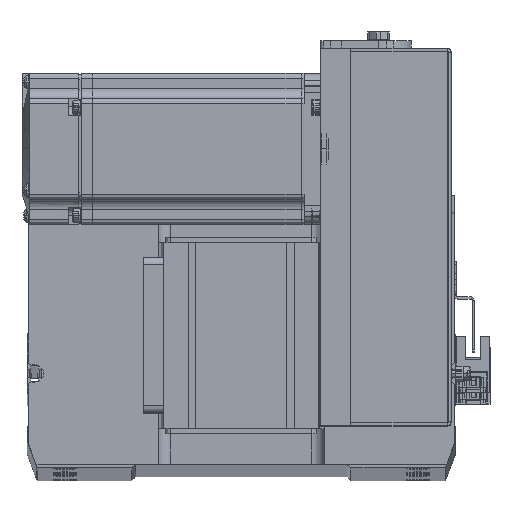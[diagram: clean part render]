
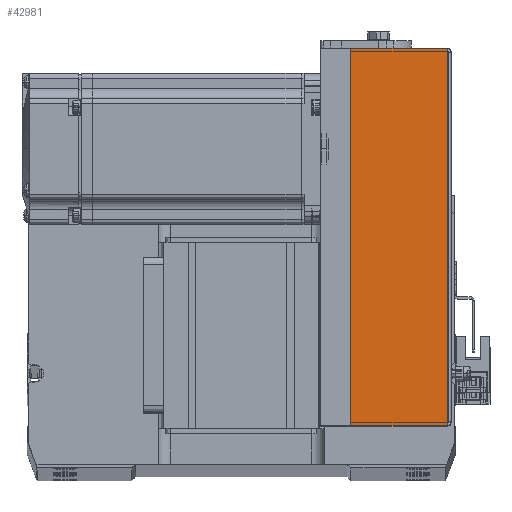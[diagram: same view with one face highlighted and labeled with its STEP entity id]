
A CAD part, top view. The second image highlights one B-rep face of the part: STEP entity #42981.
In plain terms, the highlighted planar face has unit normal (0, 0, 1) as drawn and (0, -1, 0) by its records, which use the part's own axes.
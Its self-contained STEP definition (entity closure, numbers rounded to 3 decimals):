
#1231 = FACE_OUTER_BOUND ( 'NONE', #35021, .T. ) ;
#2370 = ORIENTED_EDGE ( 'NONE', *, *, #43563, .T. ) ;
#2398 = DIRECTION ( 'NONE',  ( 0., 0., -1. ) ) ;
#5300 = VERTEX_POINT ( 'NONE', #30050 ) ;
#5556 = ORIENTED_EDGE ( 'NONE', *, *, #32274, .T. ) ;
#5778 = DIRECTION ( 'NONE',  ( 0., 0., -1. ) ) ;
#6468 = LINE ( 'NONE', #28637, #29147 ) ;
#9187 = ORIENTED_EDGE ( 'NONE', *, *, #18361, .F. ) ;
#10253 = ORIENTED_EDGE ( 'NONE', *, *, #32177, .F. ) ;
#10356 = VECTOR ( 'NONE', #40515, 1000. ) ;
#11614 = DIRECTION ( 'NONE',  ( 0., 0., -1. ) ) ;
#11759 = LINE ( 'NONE', #33472, #10356 ) ;
#12633 = LINE ( 'NONE', #38122, #28366 ) ;
#12998 = CARTESIAN_POINT ( 'NONE',  ( 75., -36., 12. ) ) ;
#14249 = DIRECTION ( 'NONE',  ( 1., 0., 0. ) ) ;
#15611 = CARTESIAN_POINT ( 'NONE',  ( 0., -36., 50.8 ) ) ;
#17371 = VERTEX_POINT ( 'NONE', #12998 ) ;
#18361 = EDGE_CURVE ( 'NONE', #25116, #5300, #11759, .T. ) ;
#20051 = CARTESIAN_POINT ( 'NONE',  ( -75., -36., 12. ) ) ;
#25116 = VERTEX_POINT ( 'NONE', #35012 ) ;
#26220 = PLANE ( 'NONE',  #40728 ) ;
#28366 = VECTOR ( 'NONE', #5778, 1000. ) ;
#28637 = CARTESIAN_POINT ( 'NONE',  ( 0., -36., 12. ) ) ;
#29147 = VECTOR ( 'NONE', #14249, 1000. ) ;
#30050 = CARTESIAN_POINT ( 'NONE',  ( 75., -36., 50.3 ) ) ;
#32177 = EDGE_CURVE ( 'NONE', #5300, #17371, #12633, .T. ) ;
#32274 = EDGE_CURVE ( 'NONE', #46583, #17371, #6468, .T. ) ;
#33472 = CARTESIAN_POINT ( 'NONE',  ( 75., -36., 50.3 ) ) ;
#35012 = CARTESIAN_POINT ( 'NONE',  ( -75., -36., 50.3 ) ) ;
#35021 = EDGE_LOOP ( 'NONE', ( #9187, #2370, #5556, #10253 ) ) ;
#38122 = CARTESIAN_POINT ( 'NONE',  ( 75., -36., 50.3 ) ) ;
#38509 = CARTESIAN_POINT ( 'NONE',  ( -75., -36., 50.3 ) ) ;
#38519 = VECTOR ( 'NONE', #2398, 1000. ) ;
#40515 = DIRECTION ( 'NONE',  ( 1., 0., 0. ) ) ;
#40728 = AXIS2_PLACEMENT_3D ( 'NONE', #15611, #44375, #11614 ) ;
#42720 = LINE ( 'NONE', #38509, #38519 ) ;
#42981 = ADVANCED_FACE ( 'NONE', ( #1231 ), #26220, .F. ) ;
#43563 = EDGE_CURVE ( 'NONE', #25116, #46583, #42720, .T. ) ;
#44375 = DIRECTION ( 'NONE',  ( 0., 1., 0. ) ) ;
#46583 = VERTEX_POINT ( 'NONE', #20051 ) ;
